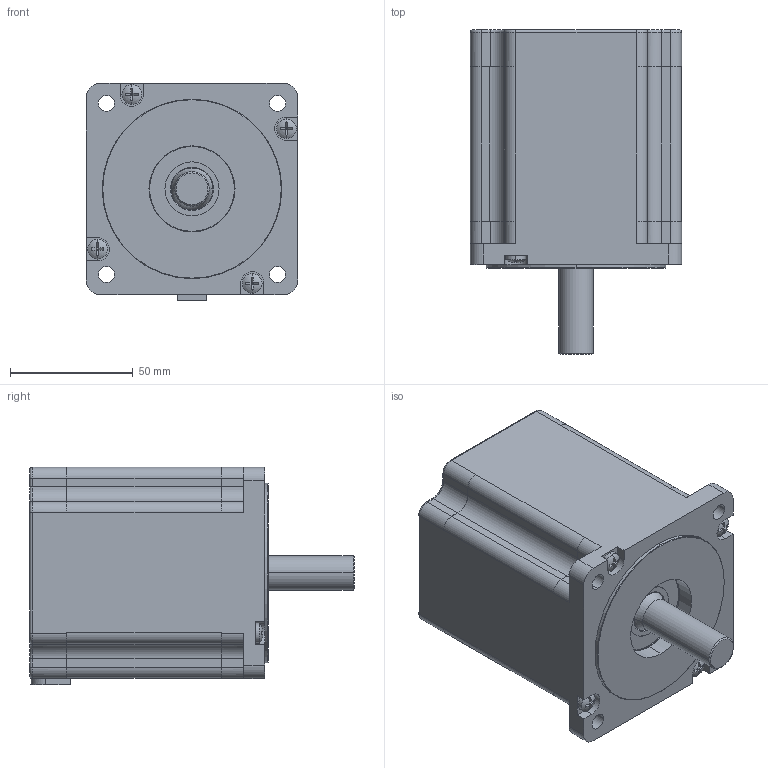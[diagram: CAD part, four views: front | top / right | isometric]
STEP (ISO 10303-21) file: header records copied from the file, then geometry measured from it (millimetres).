
FILE_DESCRIPTION((''),'2;1');
FILE_NAME('3_1_01_086_0555_SW0001','2020-10-14T',('zhangjie-yf'),(''),'CREO PARAMETRIC BY PTC INC, 2015200','CREO PARAMETRIC BY PTC INC, 2015200','');
FILE_SCHEMA(('CONFIG_CONTROL_DESIGN'));
Products named in the file (1): 3_1_01_086_0555_SW0001
Bounding box: 85.9 x 132 x 88.4 mm (x, y, z)
Volume: 419839.7 mm3; surface area: 179580.1 mm2
Topology: 3 solids, 5 shells, 3532 faces, 10332 edges, 6756 vertices
Faces by surface type: plane 2325, cylinder 1131, torus 50, cone 14, sphere 8, bspline 4
Entity records: 118666 total; most frequent: CARTESIAN_POINT 22602, ORIENTED_EDGE 20664, DIRECTION 19977, EDGE_CURVE 10332, VECTOR 7185, LINE 7185, VERTEX_POINT 6756, AXIS2_PLACEMENT_3D 6396
